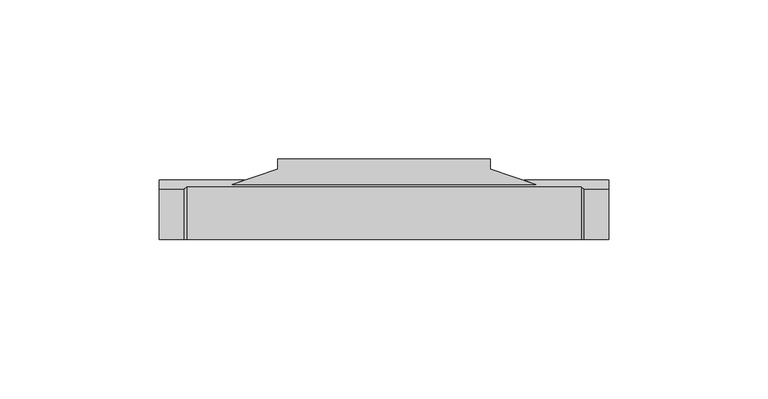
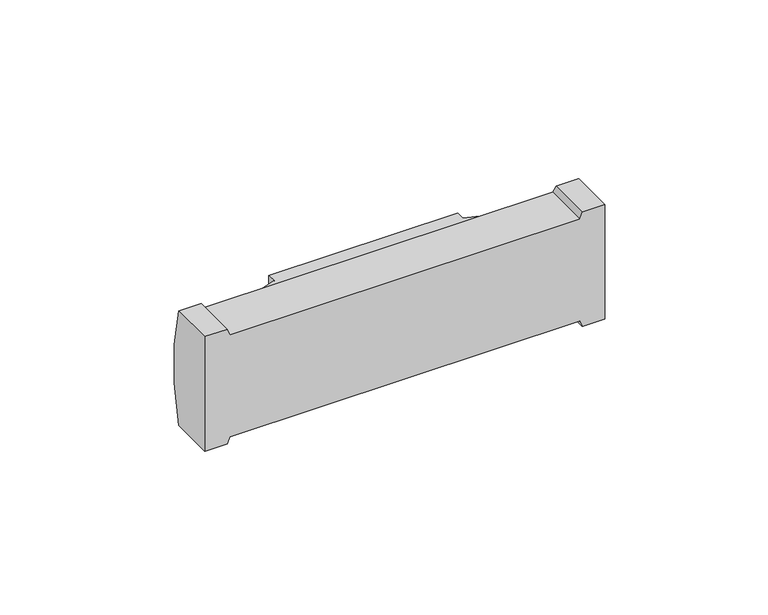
"""IFC4 building model written with IfcOpenShell, lengths in millimetres: proxy geometry, BYRNE 4 TRAC-2 USB."""

from ifc_helpers import new_model, si_unit, frame, origin, place, context, project, spatial, circle_curve, ellipse_curve, source, transform, mapped, element, save
from ifc_brep_helpers import plane_surface, cylinder_surface, advanced_brep


def generic_models_0eff05cb(model_context):
    return source(origin(), model_context, "Body", "AdvancedBrep", [
        advanced_brep(
        [(8.73125, 16.5530618, -40.48125), (8.73125, 0.0, -40.48125), (7.9375, 0.0, -42.8625), (7.9375, 15.875, -42.8625), (132.55625, 16.5530618, -40.48125), (132.55625, 0.0, -40.48125), (0.0, 15.875, -42.8625), (0.0, 15.875, 0.0), (7.9375, 15.875, 0.0), (8.73125, 16.5530618, -2.38125), (132.55625, 16.5530618, -2.38125), (133.35, 15.875, 0.0), (141.2875, 15.875, 0.0), (141.2875, 15.875, -42.8625), (133.35, 15.875, -42.8625), (118.3386, 17.3251783, -5.55625), (23.01875, 17.3251783, -5.55625), (23.01875, 17.3251783, -37.30625), (118.3386, 17.3251783, -37.30625), (0.0, 0.0, -42.8625), (0.0, 0.0, 0.0), (133.35, 0.0, -42.8625), (141.2875, 0.0, -42.8625), (141.2875, 0.0, 0.0), (133.35, 0.0, 0.0), (132.55625, 0.0, -2.38125), (8.73125, 0.0, -2.38125), (7.9375, 0.0, 0.0), (37.30625, 25.4, -37.30625), (37.30625, 25.4, -5.55625), (103.98125, 25.4, -5.55625), (103.98125, 25.4, -37.30625), (37.30625, 22.225, -37.30625), (37.30625, 22.225, -5.55625), (103.98125, 22.225, -5.55625), (103.98125, 22.225, -37.30625)],
        [
            (0, 1),
            (1, 2),
            (2, 3),
            (3, 0, ellipse_curve(frame((15.08125, -54.8679687, -21.43125), z_axis=(0.9486832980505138, 0.0, -0.31622776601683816), x_axis=(-0.31622776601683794, 0.0, -0.9486832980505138)), 77.9163804, 73.9179687)),
            (0, 4),
            (4, 5),
            (5, 1),
            (3, 6),
            (6, 7, circle_curve(frame((0.0, -54.8679687, -21.43125), z_axis=(1.0, 0.0, 0.0), x_axis=(0.0, 0.0, 1.0)), 73.9179687)),
            (7, 8),
            (8, 9, ellipse_curve(frame((15.08125, -54.8679687, -21.43125), z_axis=(-0.9486832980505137, 0.0, -0.3162277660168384), x_axis=(-0.31622776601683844, 0.0, 0.9486832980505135)), 77.9163804, 73.9179687)),
            (9, 10),
            (10, 11, ellipse_curve(frame((126.20625, -54.8679687, -21.43125), z_axis=(0.948683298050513, 0.0, -0.31622776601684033), x_axis=(-0.3162277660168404, 0.0, -0.9486832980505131)), 77.9163804, 73.9179687)),
            (11, 12),
            (12, 13, circle_curve(frame((141.2875, -54.8679687, -21.43125), z_axis=(-1.0, 0.0, 0.0), x_axis=(0.0, 0.0, 1.0)), 73.9179687)),
            (13, 14),
            (14, 4, ellipse_curve(frame((126.20625, -54.8679687, -21.43125), z_axis=(0.9486832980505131, 0.0, 0.3162277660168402), x_axis=(-0.31622776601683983, 0.0, 0.9486832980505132)), 77.9163804, 73.9179687)),
            (15, 16),
            (16, 17, ellipse_curve(frame((-187.4908662, -54.8679687, -21.43125), z_axis=(-0.3243983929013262, 0.945920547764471, 0.0), x_axis=(-0.9459205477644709, -0.3243983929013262, 0.0)), 227.8616984, 73.9179687)),
            (17, 18),
            (18, 15, ellipse_curve(frame((329.8773743, -54.8679687, -21.43125), z_axis=(0.3229851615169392, 0.9464040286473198, 0.0), x_axis=(-0.9464040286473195, 0.3229851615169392, 0.0)), 228.8587141, 73.9179687)),
            (6, 19),
            (19, 20),
            (20, 7),
            (14, 21),
            (21, 5),
            (21, 22),
            (22, 23),
            (23, 24),
            (24, 25),
            (25, 26),
            (26, 27),
            (27, 20),
            (19, 2),
            (22, 13),
            (12, 23),
            (26, 9),
            (8, 27),
            (25, 10),
            (24, 11),
            (28, 29),
            (29, 30),
            (30, 31),
            (31, 28),
            (32, 33),
            (33, 29),
            (28, 32),
            (16, 33),
            (32, 17),
            (15, 34),
            (34, 30),
            (18, 35),
            (35, 34),
            (35, 31),
        ],
        [
            plane_surface(frame((7.9375, 0.0, -42.8625), z_axis=(0.9486832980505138, 0.0, -0.31622776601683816), x_axis=(0.31622776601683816, 0.0, 0.9486832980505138))),
            plane_surface(frame((22.225, 0.0, -40.48125), z_axis=(0.0, 0.0, -1.0), x_axis=(1.0, 0.0, 0.0))),
            cylinder_surface(frame((141.2875, -54.8679687, -21.43125), z_axis=(-1.0, 0.0, 0.0), x_axis=(0.0, 0.0, 1.0)), 73.9179687),
            plane_surface(frame((0.0, 9.525, -21.43125), z_axis=(-1.0, 0.0, 0.0), x_axis=(0.0, 0.0, -1.0))),
            plane_surface(frame((131.7625, 0.0, -38.1), z_axis=(-0.9486832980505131, 0.0, -0.3162277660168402), x_axis=(0.3162277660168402, 0.0, -0.9486832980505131))),
            plane_surface(frame((0.0, 0.0, 0.0), z_axis=(0.0, -1.0, 0.0), x_axis=(0.0, 0.0, -1.0))),
            plane_surface(frame((141.2875, 9.525, -21.43125), z_axis=(1.0, 0.0, 0.0), x_axis=(0.0, 0.0, -1.0))),
            plane_surface(frame((9.525, 0.0, -4.7625), z_axis=(0.9486832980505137, 0.0, 0.3162277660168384), x_axis=(-0.3162277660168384, 0.0, 0.9486832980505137))),
            plane_surface(frame((119.0625, 0.0, -2.38125), z_axis=(0.0, 0.0, 1.0), x_axis=(-1.0, 0.0, 0.0))),
            plane_surface(frame((0.0, 0.0, -42.8625), z_axis=(0.0, 0.0, -1.0), x_axis=(0.0, 1.0, 0.0))),
            plane_surface(frame((0.0, 19.05, 0.0), z_axis=(0.0, 0.0, 1.0), x_axis=(0.0, -1.0, 0.0))),
            plane_surface(frame((133.35, 0.0, 0.0), z_axis=(-0.948683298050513, 0.0, 0.31622776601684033), x_axis=(-0.31622776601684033, 0.0, -0.948683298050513))),
            plane_surface(frame((70.64375, 25.4, -21.43125), z_axis=(0.0, 1.0, 0.0), x_axis=(0.0, 0.0, -1.0))),
            plane_surface(frame((37.30625, 25.4, -5.55625), z_axis=(-1.0, 0.0, 0.0), x_axis=(0.0, 0.0, -1.0))),
            plane_surface(frame((37.30625, 22.225, -5.55625), z_axis=(-0.3243983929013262, 0.945920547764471, 0.0), x_axis=(-0.945920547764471, -0.3243983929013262, 0.0))),
            plane_surface(frame((37.30625, 22.225, -5.55625), z_axis=(0.0, 0.0, 1.0), x_axis=(-1.0, 0.0, 0.0))),
            plane_surface(frame((118.3386, 17.3251783, -5.55625), z_axis=(0.3229851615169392, 0.9464040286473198, 0.0), x_axis=(-0.9464040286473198, 0.3229851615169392, 0.0))),
            plane_surface(frame((103.98125, 25.4, -37.30625), z_axis=(1.0, 0.0, 0.0), x_axis=(0.0, 0.0, 1.0))),
            plane_surface(frame((23.01875, 22.225, -37.30625), z_axis=(0.0, 0.0, -1.0), x_axis=(1.0, 0.0, 0.0))),
        ],
        [
            (0, [[1, 2, 3, 4]]),
            (1, [[-1, 5, 6, 7]]),
            (2, [[-4, 8, 9, 10, 11, 12, 13, 14, 15, 16, 17, -5], [18, 19, 20, 21]]),
            (3, [[-9, 22, 23, 24]]),
            (4, [[-6, -17, 25, 26]]),
            (5, [[-7, -26, 27, 28, 29, 30, 31, 32, 33, -23, 34, -2]]),
            (6, [[-28, 35, -15, 36]]),
            (7, [[37, -11, 38, -32]]),
            (8, [[39, -12, -37, -31]]),
            (9, [[-34, -22, -8, -3]]),
            (10, [[-33, -38, -10, -24]]),
            (11, [[-39, -30, 40, -13]]),
            (10, [[-29, -36, -14, -40]]),
            (9, [[-27, -25, -16, -35]]),
            (12, [[41, 42, 43, 44]]),
            (13, [[45, 46, -41, 47]]),
            (14, [[-19, 48, -45, 49]]),
            (15, [[-48, -18, 50, 51, -42, -46]]),
            (16, [[-21, 52, 53, -50]]),
            (17, [[-53, 54, -43, -51]]),
            (18, [[-52, -20, -49, -47, -44, -54]]),
        ],
    ),
    ])


if __name__ == "__main__":
    model = new_model("IFC4")
    model_context = context("Model", 3, world=origin())
    ifc_project = project(units=[si_unit("LENGTHUNIT", "METRE", prefix="MILLI")], contexts=[model_context])
    site = spatial("IfcSite", under=ifc_project)
    building = spatial("IfcBuilding", under=site)
    placement = place(None, origin())
    generic_models_shape = generic_models_0eff05cb(model_context)
    element("IfcBuildingElementProxy", 1, Name="BYRNE 4 TRAC-2 USB", ObjectType="BYRNE 4 TRAC-2 USB", at=placement, inside=building, context=model_context, shape_type="MappedRepresentation", body=[
        mapped(generic_models_shape, transform((0.0, 0.0, 0.0), x_axis=(1.0, 0.0, 0.0), y_axis=(0.0, 1.0, 0.0), z_axis=(0.0, 0.0, 1.0))),
    ])
    save(model, "model.ifc")
